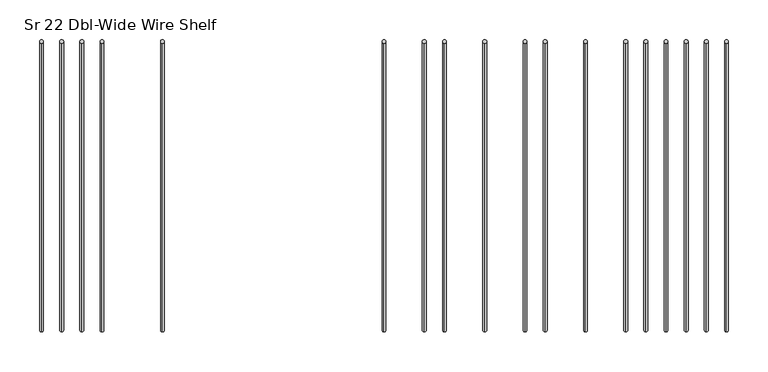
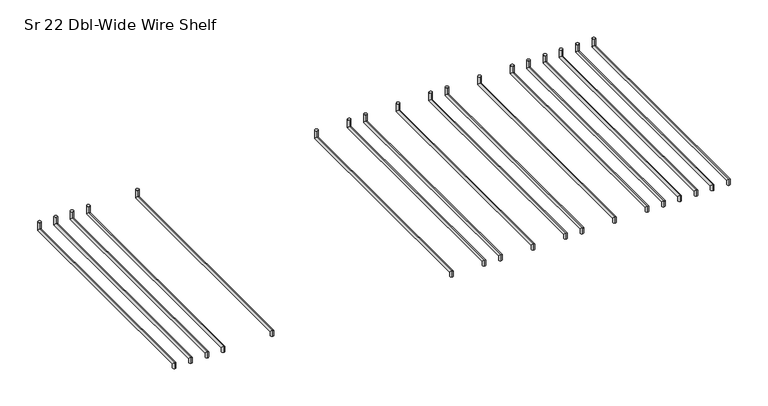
"""IFC4 building model written with IfcOpenShell, lengths in millimetres: furniture geometry, HermanMiller_Carts_CT521_CartShelf : Sr 22 Dbl-Wide Wire Shelf."""

from ifc_helpers import new_model, si_unit, frame, origin, place, context, project, spatial, circle_curve, ellipse_curve, source, transform, mapped, element, save
from ifc_brep_helpers import plane_surface, cylinder_surface, advanced_brep


def sr_22_dbl_wide_wire_shelf_e24182ef(model_context):
    return source(origin(), model_context, "Body", "AdvancedBrep", [
        advanced_brep(
        [(561.7223083, -206.38135, 2148.4971), (561.7223083, -211.14385, 2148.4971), (561.7223083, -206.38135, 2153.2596), (561.7223083, -211.14385, 2158.0221), (561.7223083, 157.2983379, 2153.2596), (561.7223083, 152.5358379, 2158.0221), (561.7223083, 157.2983379, 2168.5377), (561.7223083, 152.5358379, 2168.5377)],
        [
            (0, 1, circle_curve(frame((561.7223083, -208.7626, 2148.4971), z_axis=(0.0, 0.0, -1.0), x_axis=(0.0, -1.0, 0.0)), 2.38125)),
            (1, 0, circle_curve(frame((561.7223083, -208.7626, 2148.4971), z_axis=(0.0, 0.0, -1.0), x_axis=(0.0, -1.0, 0.0)), 2.38125)),
            (0, 2),
            (2, 3, ellipse_curve(frame((561.7223083, -208.7626, 2155.64085), z_axis=(0.0, -0.7071067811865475, -0.7071067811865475), x_axis=(0.0, 0.7071067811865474, -0.7071067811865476)), 3.367596, 2.38125)),
            (3, 1),
            (3, 2, ellipse_curve(frame((561.7223083, -208.7626, 2155.64085), z_axis=(0.0, -0.7071067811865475, -0.7071067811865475), x_axis=(0.0, 0.7071067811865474, -0.7071067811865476)), 3.367596, 2.38125)),
            (2, 4),
            (4, 5, ellipse_curve(frame((561.7223083, 154.9170879, 2155.64085), z_axis=(0.0, -0.7071067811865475, -0.7071067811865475), x_axis=(0.0, -0.7071067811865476, 0.7071067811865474)), 3.367596, 2.38125)),
            (5, 3),
            (5, 4, ellipse_curve(frame((561.7223083, 154.9170879, 2155.64085), z_axis=(0.0, -0.7071067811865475, -0.7071067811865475), x_axis=(0.0, -0.7071067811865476, 0.7071067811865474)), 3.367596, 2.38125)),
            (6, 7, circle_curve(frame((561.7223083, 154.9170879, 2168.5377), z_axis=(0.0, 0.0, 1.0), x_axis=(0.0, -1.0, 0.0)), 2.38125)),
            (7, 6, circle_curve(frame((561.7223083, 154.9170879, 2168.5377), z_axis=(0.0, 0.0, 1.0), x_axis=(0.0, -1.0, 0.0)), 2.38125)),
            (4, 6),
            (7, 5),
        ],
        [
            plane_surface(frame((561.7223083, -208.7626, 2148.4971), z_axis=(0.0, 0.0, -1.0), x_axis=(1.0, 0.0, 0.0))),
            cylinder_surface(frame((561.7223083, -208.7626, 2148.4971), z_axis=(0.0, 0.0, -1.0), x_axis=(0.0, -1.0, 0.0)), 2.38125),
            cylinder_surface(frame((561.7223083, -208.7626, 2155.64085), z_axis=(0.0, -1.0, 0.0), x_axis=(0.0, 0.0, 1.0)), 2.38125),
            plane_surface(frame((561.7223083, 154.9170879, 2168.5377), z_axis=(0.0, 0.0, 1.0), x_axis=(1.0, 0.0, 0.0))),
            cylinder_surface(frame((561.7223083, 154.9170879, 2155.64085), z_axis=(0.0, 0.0, -1.0), x_axis=(0.0, -1.0, 0.0)), 2.38125),
        ],
        [
            (0, [[1, 2]]),
            (1, [[-1, 3, 4, 5]]),
            (1, [[-2, -5, 6, -3]]),
            (2, [[-4, 7, 8, 9]]),
            (2, [[-6, -9, 10, -7]]),
            (3, [[11, 12]]),
            (4, [[-8, 13, -12, 14]]),
            (4, [[-10, -14, -11, -13]]),
        ],
    ),
        advanced_brep(
        [(637.9223083, -206.38135, 2148.4971), (637.9223083, -211.14385, 2148.4971), (637.9223083, -206.38135, 2153.2596), (637.9223083, -211.14385, 2158.0221), (637.9223083, 157.2983379, 2153.2596), (637.9223083, 152.5358379, 2158.0221), (637.9223083, 157.2983379, 2168.5377), (637.9223083, 152.5358379, 2168.5377)],
        [
            (0, 1, circle_curve(frame((637.9223083, -208.7626, 2148.4971), z_axis=(0.0, 0.0, -1.0), x_axis=(0.0, -1.0, 0.0)), 2.38125)),
            (1, 0, circle_curve(frame((637.9223083, -208.7626, 2148.4971), z_axis=(0.0, 0.0, -1.0), x_axis=(0.0, -1.0, 0.0)), 2.38125)),
            (0, 2),
            (2, 3, ellipse_curve(frame((637.9223083, -208.7626, 2155.64085), z_axis=(0.0, -0.7071067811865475, -0.7071067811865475), x_axis=(0.0, 0.7071067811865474, -0.7071067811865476)), 3.367596, 2.38125)),
            (3, 1),
            (3, 2, ellipse_curve(frame((637.9223083, -208.7626, 2155.64085), z_axis=(0.0, -0.7071067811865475, -0.7071067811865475), x_axis=(0.0, 0.7071067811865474, -0.7071067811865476)), 3.367596, 2.38125)),
            (2, 4),
            (4, 5, ellipse_curve(frame((637.9223083, 154.9170879, 2155.64085), z_axis=(0.0, -0.7071067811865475, -0.7071067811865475), x_axis=(0.0, -0.7071067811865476, 0.7071067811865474)), 3.367596, 2.38125)),
            (5, 3),
            (5, 4, ellipse_curve(frame((637.9223083, 154.9170879, 2155.64085), z_axis=(0.0, -0.7071067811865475, -0.7071067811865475), x_axis=(0.0, -0.7071067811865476, 0.7071067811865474)), 3.367596, 2.38125)),
            (6, 7, circle_curve(frame((637.9223083, 154.9170879, 2168.5377), z_axis=(0.0, 0.0, 1.0), x_axis=(0.0, -1.0, 0.0)), 2.38125)),
            (7, 6, circle_curve(frame((637.9223083, 154.9170879, 2168.5377), z_axis=(0.0, 0.0, 1.0), x_axis=(0.0, -1.0, 0.0)), 2.38125)),
            (4, 6),
            (7, 5),
        ],
        [
            plane_surface(frame((637.9223083, -208.7626, 2148.4971), z_axis=(0.0, 0.0, -1.0), x_axis=(1.0, 0.0, 0.0))),
            cylinder_surface(frame((637.9223083, -208.7626, 2148.4971), z_axis=(0.0, 0.0, -1.0), x_axis=(0.0, -1.0, 0.0)), 2.38125),
            cylinder_surface(frame((637.9223083, -208.7626, 2155.64085), z_axis=(0.0, -1.0, 0.0), x_axis=(0.0, 0.0, 1.0)), 2.38125),
            plane_surface(frame((637.9223083, 154.9170879, 2168.5377), z_axis=(0.0, 0.0, 1.0), x_axis=(1.0, 0.0, 0.0))),
            cylinder_surface(frame((637.9223083, 154.9170879, 2155.64085), z_axis=(0.0, 0.0, -1.0), x_axis=(0.0, -1.0, 0.0)), 2.38125),
        ],
        [
            (0, [[1, 2]]),
            (1, [[-1, 3, 4, 5]]),
            (1, [[-2, -5, 6, -3]]),
            (2, [[-4, 7, 8, 9]]),
            (2, [[-6, -9, 10, -7]]),
            (3, [[11, 12]]),
            (4, [[-8, 13, -12, 14]]),
            (4, [[-10, -14, -11, -13]]),
        ],
    ),
        advanced_brep(
        [(688.7223083, -206.38135, 2148.4971), (688.7223083, -211.14385, 2148.4971), (688.7223083, -206.38135, 2153.2596), (688.7223083, -211.14385, 2158.0221), (688.7223083, 157.2983379, 2153.2596), (688.7223083, 152.5358379, 2158.0221), (688.7223083, 157.2983379, 2168.5377), (688.7223083, 152.5358379, 2168.5377)],
        [
            (0, 1, circle_curve(frame((688.7223083, -208.7626, 2148.4971), z_axis=(0.0, 0.0, -1.0), x_axis=(0.0, -1.0, 0.0)), 2.38125)),
            (1, 0, circle_curve(frame((688.7223083, -208.7626, 2148.4971), z_axis=(0.0, 0.0, -1.0), x_axis=(0.0, -1.0, 0.0)), 2.38125)),
            (0, 2),
            (2, 3, ellipse_curve(frame((688.7223083, -208.7626, 2155.64085), z_axis=(0.0, -0.7071067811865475, -0.7071067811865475), x_axis=(0.0, 0.7071067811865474, -0.7071067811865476)), 3.367596, 2.38125)),
            (3, 1),
            (3, 2, ellipse_curve(frame((688.7223083, -208.7626, 2155.64085), z_axis=(0.0, -0.7071067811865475, -0.7071067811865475), x_axis=(0.0, 0.7071067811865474, -0.7071067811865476)), 3.367596, 2.38125)),
            (2, 4),
            (4, 5, ellipse_curve(frame((688.7223083, 154.9170879, 2155.64085), z_axis=(0.0, -0.7071067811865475, -0.7071067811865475), x_axis=(0.0, -0.7071067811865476, 0.7071067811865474)), 3.367596, 2.38125)),
            (5, 3),
            (5, 4, ellipse_curve(frame((688.7223083, 154.9170879, 2155.64085), z_axis=(0.0, -0.7071067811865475, -0.7071067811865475), x_axis=(0.0, -0.7071067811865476, 0.7071067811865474)), 3.367596, 2.38125)),
            (6, 7, circle_curve(frame((688.7223083, 154.9170879, 2168.5377), z_axis=(0.0, 0.0, 1.0), x_axis=(0.0, -1.0, 0.0)), 2.38125)),
            (7, 6, circle_curve(frame((688.7223083, 154.9170879, 2168.5377), z_axis=(0.0, 0.0, 1.0), x_axis=(0.0, -1.0, 0.0)), 2.38125)),
            (4, 6),
            (7, 5),
        ],
        [
            plane_surface(frame((688.7223083, -208.7626, 2148.4971), z_axis=(0.0, 0.0, -1.0), x_axis=(1.0, 0.0, 0.0))),
            cylinder_surface(frame((688.7223083, -208.7626, 2148.4971), z_axis=(0.0, 0.0, -1.0), x_axis=(0.0, -1.0, 0.0)), 2.38125),
            cylinder_surface(frame((688.7223083, -208.7626, 2155.64085), z_axis=(0.0, -1.0, 0.0), x_axis=(0.0, 0.0, 1.0)), 2.38125),
            plane_surface(frame((688.7223083, 154.9170879, 2168.5377), z_axis=(0.0, 0.0, 1.0), x_axis=(1.0, 0.0, 0.0))),
            cylinder_surface(frame((688.7223083, 154.9170879, 2155.64085), z_axis=(0.0, 0.0, -1.0), x_axis=(0.0, -1.0, 0.0)), 2.38125),
        ],
        [
            (0, [[1, 2]]),
            (1, [[-1, 3, 4, 5]]),
            (1, [[-2, -5, 6, -3]]),
            (2, [[-4, 7, 8, 9]]),
            (2, [[-6, -9, 10, -7]]),
            (3, [[11, 12]]),
            (4, [[-8, 13, -12, 14]]),
            (4, [[-10, -14, -11, -13]]),
        ],
    ),
        advanced_brep(
        [(663.3223083, -206.38135, 2148.4971), (663.3223083, -211.14385, 2148.4971), (663.3223083, -206.38135, 2153.2596), (663.3223083, -211.14385, 2158.0221), (663.3223083, 157.2983379, 2153.2596), (663.3223083, 152.5358379, 2158.0221), (663.3223083, 157.2983379, 2168.5377), (663.3223083, 152.5358379, 2168.5377)],
        [
            (0, 1, circle_curve(frame((663.3223083, -208.7626, 2148.4971), z_axis=(0.0, 0.0, -1.0), x_axis=(0.0, -1.0, 0.0)), 2.38125)),
            (1, 0, circle_curve(frame((663.3223083, -208.7626, 2148.4971), z_axis=(0.0, 0.0, -1.0), x_axis=(0.0, -1.0, 0.0)), 2.38125)),
            (0, 2),
            (2, 3, ellipse_curve(frame((663.3223083, -208.7626, 2155.64085), z_axis=(0.0, -0.7071067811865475, -0.7071067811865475), x_axis=(0.0, 0.7071067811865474, -0.7071067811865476)), 3.367596, 2.38125)),
            (3, 1),
            (3, 2, ellipse_curve(frame((663.3223083, -208.7626, 2155.64085), z_axis=(0.0, -0.7071067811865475, -0.7071067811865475), x_axis=(0.0, 0.7071067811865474, -0.7071067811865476)), 3.367596, 2.38125)),
            (2, 4),
            (4, 5, ellipse_curve(frame((663.3223083, 154.9170879, 2155.64085), z_axis=(0.0, -0.7071067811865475, -0.7071067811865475), x_axis=(0.0, -0.7071067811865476, 0.7071067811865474)), 3.367596, 2.38125)),
            (5, 3),
            (5, 4, ellipse_curve(frame((663.3223083, 154.9170879, 2155.64085), z_axis=(0.0, -0.7071067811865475, -0.7071067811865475), x_axis=(0.0, -0.7071067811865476, 0.7071067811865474)), 3.367596, 2.38125)),
            (6, 7, circle_curve(frame((663.3223083, 154.9170879, 2168.5377), z_axis=(0.0, 0.0, 1.0), x_axis=(0.0, -1.0, 0.0)), 2.38125)),
            (7, 6, circle_curve(frame((663.3223083, 154.9170879, 2168.5377), z_axis=(0.0, 0.0, 1.0), x_axis=(0.0, -1.0, 0.0)), 2.38125)),
            (4, 6),
            (7, 5),
        ],
        [
            plane_surface(frame((663.3223083, -208.7626, 2148.4971), z_axis=(0.0, 0.0, -1.0), x_axis=(1.0, 0.0, 0.0))),
            cylinder_surface(frame((663.3223083, -208.7626, 2148.4971), z_axis=(0.0, 0.0, -1.0), x_axis=(0.0, -1.0, 0.0)), 2.38125),
            cylinder_surface(frame((663.3223083, -208.7626, 2155.64085), z_axis=(0.0, -1.0, 0.0), x_axis=(0.0, 0.0, 1.0)), 2.38125),
            plane_surface(frame((663.3223083, 154.9170879, 2168.5377), z_axis=(0.0, 0.0, 1.0), x_axis=(1.0, 0.0, 0.0))),
            cylinder_surface(frame((663.3223083, 154.9170879, 2155.64085), z_axis=(0.0, 0.0, -1.0), x_axis=(0.0, -1.0, 0.0)), 2.38125),
        ],
        [
            (0, [[1, 2]]),
            (1, [[-1, 3, 4, 5]]),
            (1, [[-2, -5, 6, -3]]),
            (2, [[-4, 7, 8, 9]]),
            (2, [[-6, -9, 10, -7]]),
            (3, [[11, 12]]),
            (4, [[-8, 13, -12, 14]]),
            (4, [[-10, -14, -11, -13]]),
        ],
    ),
        advanced_brep(
        [(612.5223083, -206.38135, 2148.4971), (612.5223083, -211.14385, 2148.4971), (612.5223083, -206.38135, 2153.2596), (612.5223083, -211.14385, 2158.0221), (612.5223083, 157.2983379, 2153.2596), (612.5223083, 152.5358379, 2158.0221), (612.5223083, 157.2983379, 2168.5377), (612.5223083, 152.5358379, 2168.5377)],
        [
            (0, 1, circle_curve(frame((612.5223083, -208.7626, 2148.4971), z_axis=(0.0, 0.0, -1.0), x_axis=(0.0, -1.0, 0.0)), 2.38125)),
            (1, 0, circle_curve(frame((612.5223083, -208.7626, 2148.4971), z_axis=(0.0, 0.0, -1.0), x_axis=(0.0, -1.0, 0.0)), 2.38125)),
            (0, 2),
            (2, 3, ellipse_curve(frame((612.5223083, -208.7626, 2155.64085), z_axis=(0.0, -0.7071067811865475, -0.7071067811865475), x_axis=(0.0, 0.7071067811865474, -0.7071067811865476)), 3.367596, 2.38125)),
            (3, 1),
            (3, 2, ellipse_curve(frame((612.5223083, -208.7626, 2155.64085), z_axis=(0.0, -0.7071067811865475, -0.7071067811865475), x_axis=(0.0, 0.7071067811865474, -0.7071067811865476)), 3.367596, 2.38125)),
            (2, 4),
            (4, 5, ellipse_curve(frame((612.5223083, 154.9170879, 2155.64085), z_axis=(0.0, -0.7071067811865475, -0.7071067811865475), x_axis=(0.0, -0.7071067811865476, 0.7071067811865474)), 3.367596, 2.38125)),
            (5, 3),
            (5, 4, ellipse_curve(frame((612.5223083, 154.9170879, 2155.64085), z_axis=(0.0, -0.7071067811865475, -0.7071067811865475), x_axis=(0.0, -0.7071067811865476, 0.7071067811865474)), 3.367596, 2.38125)),
            (6, 7, circle_curve(frame((612.5223083, 154.9170879, 2168.5377), z_axis=(0.0, 0.0, 1.0), x_axis=(0.0, -1.0, 0.0)), 2.38125)),
            (7, 6, circle_curve(frame((612.5223083, 154.9170879, 2168.5377), z_axis=(0.0, 0.0, 1.0), x_axis=(0.0, -1.0, 0.0)), 2.38125)),
            (4, 6),
            (7, 5),
        ],
        [
            plane_surface(frame((612.5223083, -208.7626, 2148.4971), z_axis=(0.0, 0.0, -1.0), x_axis=(1.0, 0.0, 0.0))),
            cylinder_surface(frame((612.5223083, -208.7626, 2148.4971), z_axis=(0.0, 0.0, -1.0), x_axis=(0.0, -1.0, 0.0)), 2.38125),
            cylinder_surface(frame((612.5223083, -208.7626, 2155.64085), z_axis=(0.0, -1.0, 0.0), x_axis=(0.0, 0.0, 1.0)), 2.38125),
            plane_surface(frame((612.5223083, 154.9170879, 2168.5377), z_axis=(0.0, 0.0, 1.0), x_axis=(1.0, 0.0, 0.0))),
            cylinder_surface(frame((612.5223083, 154.9170879, 2155.64085), z_axis=(0.0, 0.0, -1.0), x_axis=(0.0, -1.0, 0.0)), 2.38125),
        ],
        [
            (0, [[1, 2]]),
            (1, [[-1, 3, 4, 5]]),
            (1, [[-2, -5, 6, -3]]),
            (2, [[-4, 7, 8, 9]]),
            (2, [[-6, -9, 10, -7]]),
            (3, [[11, 12]]),
            (4, [[-8, 13, -12, 14]]),
            (4, [[-10, -14, -11, -13]]),
        ],
    ),
        advanced_brep(
        [(587.1223083, -206.38135, 2148.4971), (587.1223083, -211.14385, 2148.4971), (587.1223083, -206.38135, 2153.2596), (587.1223083, -211.14385, 2158.0221), (587.1223083, 157.2983379, 2153.2596), (587.1223083, 152.5358379, 2158.0221), (587.1223083, 157.2983379, 2168.5377), (587.1223083, 152.5358379, 2168.5377)],
        [
            (0, 1, circle_curve(frame((587.1223083, -208.7626, 2148.4971), z_axis=(0.0, 0.0, -1.0), x_axis=(0.0, -1.0, 0.0)), 2.38125)),
            (1, 0, circle_curve(frame((587.1223083, -208.7626, 2148.4971), z_axis=(0.0, 0.0, -1.0), x_axis=(0.0, -1.0, 0.0)), 2.38125)),
            (0, 2),
            (2, 3, ellipse_curve(frame((587.1223083, -208.7626, 2155.64085), z_axis=(0.0, -0.7071067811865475, -0.7071067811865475), x_axis=(0.0, 0.7071067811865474, -0.7071067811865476)), 3.367596, 2.38125)),
            (3, 1),
            (3, 2, ellipse_curve(frame((587.1223083, -208.7626, 2155.64085), z_axis=(0.0, -0.7071067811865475, -0.7071067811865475), x_axis=(0.0, 0.7071067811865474, -0.7071067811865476)), 3.367596, 2.38125)),
            (2, 4),
            (4, 5, ellipse_curve(frame((587.1223083, 154.9170879, 2155.64085), z_axis=(0.0, -0.7071067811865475, -0.7071067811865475), x_axis=(0.0, -0.7071067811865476, 0.7071067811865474)), 3.367596, 2.38125)),
            (5, 3),
            (5, 4, ellipse_curve(frame((587.1223083, 154.9170879, 2155.64085), z_axis=(0.0, -0.7071067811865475, -0.7071067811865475), x_axis=(0.0, -0.7071067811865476, 0.7071067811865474)), 3.367596, 2.38125)),
            (6, 7, circle_curve(frame((587.1223083, 154.9170879, 2168.5377), z_axis=(0.0, 0.0, 1.0), x_axis=(0.0, -1.0, 0.0)), 2.38125)),
            (7, 6, circle_curve(frame((587.1223083, 154.9170879, 2168.5377), z_axis=(0.0, 0.0, 1.0), x_axis=(0.0, -1.0, 0.0)), 2.38125)),
            (4, 6),
            (7, 5),
        ],
        [
            plane_surface(frame((587.1223083, -208.7626, 2148.4971), z_axis=(0.0, 0.0, -1.0), x_axis=(1.0, 0.0, 0.0))),
            cylinder_surface(frame((587.1223083, -208.7626, 2148.4971), z_axis=(0.0, 0.0, -1.0), x_axis=(0.0, -1.0, 0.0)), 2.38125),
            cylinder_surface(frame((587.1223083, -208.7626, 2155.64085), z_axis=(0.0, -1.0, 0.0), x_axis=(0.0, 0.0, 1.0)), 2.38125),
            plane_surface(frame((587.1223083, 154.9170879, 2168.5377), z_axis=(0.0, 0.0, 1.0), x_axis=(1.0, 0.0, 0.0))),
            cylinder_surface(frame((587.1223083, 154.9170879, 2155.64085), z_axis=(0.0, 0.0, -1.0), x_axis=(0.0, -1.0, 0.0)), 2.38125),
        ],
        [
            (0, [[1, 2]]),
            (1, [[-1, 3, 4, 5]]),
            (1, [[-2, -5, 6, -3]]),
            (2, [[-4, 7, 8, 9]]),
            (2, [[-6, -9, 10, -7]]),
            (3, [[11, 12]]),
            (4, [[-8, 13, -12, 14]]),
            (4, [[-10, -14, -11, -13]]),
        ],
    ),
        advanced_brep(
        [(510.9223083, -206.38135, 2148.4971), (510.9223083, -211.14385, 2148.4971), (510.9223083, -206.38135, 2153.2596), (510.9223083, -211.14385, 2158.0221), (510.9223083, 157.2983379, 2153.2596), (510.9223083, 152.5358379, 2158.0221), (510.9223083, 157.2983379, 2168.5377), (510.9223083, 152.5358379, 2168.5377)],
        [
            (0, 1, circle_curve(frame((510.9223083, -208.7626, 2148.4971), z_axis=(0.0, 0.0, -1.0), x_axis=(0.0, -1.0, 0.0)), 2.38125)),
            (1, 0, circle_curve(frame((510.9223083, -208.7626, 2148.4971), z_axis=(0.0, 0.0, -1.0), x_axis=(0.0, -1.0, 0.0)), 2.38125)),
            (0, 2),
            (2, 3, ellipse_curve(frame((510.9223083, -208.7626, 2155.64085), z_axis=(0.0, -0.7071067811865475, -0.7071067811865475), x_axis=(0.0, 0.7071067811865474, -0.7071067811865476)), 3.367596, 2.38125)),
            (3, 1),
            (3, 2, ellipse_curve(frame((510.9223083, -208.7626, 2155.64085), z_axis=(0.0, -0.7071067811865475, -0.7071067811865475), x_axis=(0.0, 0.7071067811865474, -0.7071067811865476)), 3.367596, 2.38125)),
            (2, 4),
            (4, 5, ellipse_curve(frame((510.9223083, 154.9170879, 2155.64085), z_axis=(0.0, -0.7071067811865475, -0.7071067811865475), x_axis=(0.0, -0.7071067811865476, 0.7071067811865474)), 3.367596, 2.38125)),
            (5, 3),
            (5, 4, ellipse_curve(frame((510.9223083, 154.9170879, 2155.64085), z_axis=(0.0, -0.7071067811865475, -0.7071067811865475), x_axis=(0.0, -0.7071067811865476, 0.7071067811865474)), 3.367596, 2.38125)),
            (6, 7, circle_curve(frame((510.9223083, 154.9170879, 2168.5377), z_axis=(0.0, 0.0, 1.0), x_axis=(0.0, -1.0, 0.0)), 2.38125)),
            (7, 6, circle_curve(frame((510.9223083, 154.9170879, 2168.5377), z_axis=(0.0, 0.0, 1.0), x_axis=(0.0, -1.0, 0.0)), 2.38125)),
            (4, 6),
            (7, 5),
        ],
        [
            plane_surface(frame((510.9223083, -208.7626, 2148.4971), z_axis=(0.0, 0.0, -1.0), x_axis=(1.0, 0.0, 0.0))),
            cylinder_surface(frame((510.9223083, -208.7626, 2148.4971), z_axis=(0.0, 0.0, -1.0), x_axis=(0.0, -1.0, 0.0)), 2.38125),
            cylinder_surface(frame((510.9223083, -208.7626, 2155.64085), z_axis=(0.0, -1.0, 0.0), x_axis=(0.0, 0.0, 1.0)), 2.38125),
            plane_surface(frame((510.9223083, 154.9170879, 2168.5377), z_axis=(0.0, 0.0, 1.0), x_axis=(1.0, 0.0, 0.0))),
            cylinder_surface(frame((510.9223083, 154.9170879, 2155.64085), z_axis=(0.0, 0.0, -1.0), x_axis=(0.0, -1.0, 0.0)), 2.38125),
        ],
        [
            (0, [[1, 2]]),
            (1, [[-1, 3, 4, 5]]),
            (1, [[-2, -5, 6, -3]]),
            (2, [[-4, 7, 8, 9]]),
            (2, [[-6, -9, 10, -7]]),
            (3, [[11, 12]]),
            (4, [[-8, 13, -12, 14]]),
            (4, [[-10, -14, -11, -13]]),
        ],
    ),
        advanced_brep(
        [(460.1223083, -206.38135, 2148.4971), (460.1223083, -211.14385, 2148.4971), (460.1223083, -206.38135, 2153.2596), (460.1223083, -211.14385, 2158.0221), (460.1223083, 157.2983379, 2153.2596), (460.1223083, 152.5358379, 2158.0221), (460.1223083, 157.2983379, 2168.5377), (460.1223083, 152.5358379, 2168.5377)],
        [
            (0, 1, circle_curve(frame((460.1223083, -208.7626, 2148.4971), z_axis=(0.0, 0.0, -1.0), x_axis=(0.0, -1.0, 0.0)), 2.38125)),
            (1, 0, circle_curve(frame((460.1223083, -208.7626, 2148.4971), z_axis=(0.0, 0.0, -1.0), x_axis=(0.0, -1.0, 0.0)), 2.38125)),
            (0, 2),
            (2, 3, ellipse_curve(frame((460.1223083, -208.7626, 2155.64085), z_axis=(0.0, -0.7071067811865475, -0.7071067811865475), x_axis=(0.0, 0.7071067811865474, -0.7071067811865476)), 3.367596, 2.38125)),
            (3, 1),
            (3, 2, ellipse_curve(frame((460.1223083, -208.7626, 2155.64085), z_axis=(0.0, -0.7071067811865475, -0.7071067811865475), x_axis=(0.0, 0.7071067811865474, -0.7071067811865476)), 3.367596, 2.38125)),
            (2, 4),
            (4, 5, ellipse_curve(frame((460.1223083, 154.9170879, 2155.64085), z_axis=(0.0, -0.7071067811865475, -0.7071067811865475), x_axis=(0.0, -0.7071067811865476, 0.7071067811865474)), 3.367596, 2.38125)),
            (5, 3),
            (5, 4, ellipse_curve(frame((460.1223083, 154.9170879, 2155.64085), z_axis=(0.0, -0.7071067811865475, -0.7071067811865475), x_axis=(0.0, -0.7071067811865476, 0.7071067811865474)), 3.367596, 2.38125)),
            (6, 7, circle_curve(frame((460.1223083, 154.9170879, 2168.5377), z_axis=(0.0, 0.0, 1.0), x_axis=(0.0, -1.0, 0.0)), 2.38125)),
            (7, 6, circle_curve(frame((460.1223083, 154.9170879, 2168.5377), z_axis=(0.0, 0.0, 1.0), x_axis=(0.0, -1.0, 0.0)), 2.38125)),
            (4, 6),
            (7, 5),
        ],
        [
            plane_surface(frame((460.1223083, -208.7626, 2148.4971), z_axis=(0.0, 0.0, -1.0), x_axis=(1.0, 0.0, 0.0))),
            cylinder_surface(frame((460.1223083, -208.7626, 2148.4971), z_axis=(0.0, 0.0, -1.0), x_axis=(0.0, -1.0, 0.0)), 2.38125),
            cylinder_surface(frame((460.1223083, -208.7626, 2155.64085), z_axis=(0.0, -1.0, 0.0), x_axis=(0.0, 0.0, 1.0)), 2.38125),
            plane_surface(frame((460.1223083, 154.9170879, 2168.5377), z_axis=(0.0, 0.0, 1.0), x_axis=(1.0, 0.0, 0.0))),
            cylinder_surface(frame((460.1223083, 154.9170879, 2155.64085), z_axis=(0.0, 0.0, -1.0), x_axis=(0.0, -1.0, 0.0)), 2.38125),
        ],
        [
            (0, [[1, 2]]),
            (1, [[-1, 3, 4, 5]]),
            (1, [[-2, -5, 6, -3]]),
            (2, [[-4, 7, 8, 9]]),
            (2, [[-6, -9, 10, -7]]),
            (3, [[11, 12]]),
            (4, [[-8, 13, -12, 14]]),
            (4, [[-10, -14, -11, -13]]),
        ],
    ),
        advanced_brep(
        [(434.7223083, -206.38135, 2148.4971), (434.7223083, -211.14385, 2148.4971), (434.7223083, -206.38135, 2153.2596), (434.7223083, -211.14385, 2158.0221), (434.7223083, 157.2983379, 2153.2596), (434.7223083, 152.5358379, 2158.0221), (434.7223083, 157.2983379, 2168.5377), (434.7223083, 152.5358379, 2168.5377)],
        [
            (0, 1, circle_curve(frame((434.7223083, -208.7626, 2148.4971), z_axis=(0.0, 0.0, -1.0), x_axis=(0.0, -1.0, 0.0)), 2.38125)),
            (1, 0, circle_curve(frame((434.7223083, -208.7626, 2148.4971), z_axis=(0.0, 0.0, -1.0), x_axis=(0.0, -1.0, 0.0)), 2.38125)),
            (0, 2),
            (2, 3, ellipse_curve(frame((434.7223083, -208.7626, 2155.64085), z_axis=(0.0, -0.7071067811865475, -0.7071067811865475), x_axis=(0.0, 0.7071067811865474, -0.7071067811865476)), 3.367596, 2.38125)),
            (3, 1),
            (3, 2, ellipse_curve(frame((434.7223083, -208.7626, 2155.64085), z_axis=(0.0, -0.7071067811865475, -0.7071067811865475), x_axis=(0.0, 0.7071067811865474, -0.7071067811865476)), 3.367596, 2.38125)),
            (2, 4),
            (4, 5, ellipse_curve(frame((434.7223083, 154.9170879, 2155.64085), z_axis=(0.0, -0.7071067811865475, -0.7071067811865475), x_axis=(0.0, -0.7071067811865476, 0.7071067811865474)), 3.367596, 2.38125)),
            (5, 3),
            (5, 4, ellipse_curve(frame((434.7223083, 154.9170879, 2155.64085), z_axis=(0.0, -0.7071067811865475, -0.7071067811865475), x_axis=(0.0, -0.7071067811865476, 0.7071067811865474)), 3.367596, 2.38125)),
            (6, 7, circle_curve(frame((434.7223083, 154.9170879, 2168.5377), z_axis=(0.0, 0.0, 1.0), x_axis=(0.0, -1.0, 0.0)), 2.38125)),
            (7, 6, circle_curve(frame((434.7223083, 154.9170879, 2168.5377), z_axis=(0.0, 0.0, 1.0), x_axis=(0.0, -1.0, 0.0)), 2.38125)),
            (4, 6),
            (7, 5),
        ],
        [
            plane_surface(frame((434.7223083, -208.7626, 2148.4971), z_axis=(0.0, 0.0, -1.0), x_axis=(1.0, 0.0, 0.0))),
            cylinder_surface(frame((434.7223083, -208.7626, 2148.4971), z_axis=(0.0, 0.0, -1.0), x_axis=(0.0, -1.0, 0.0)), 2.38125),
            cylinder_surface(frame((434.7223083, -208.7626, 2155.64085), z_axis=(0.0, -1.0, 0.0), x_axis=(0.0, 0.0, 1.0)), 2.38125),
            plane_surface(frame((434.7223083, 154.9170879, 2168.5377), z_axis=(0.0, 0.0, 1.0), x_axis=(1.0, 0.0, 0.0))),
            cylinder_surface(frame((434.7223083, 154.9170879, 2155.64085), z_axis=(0.0, 0.0, -1.0), x_axis=(0.0, -1.0, 0.0)), 2.38125),
        ],
        [
            (0, [[1, 2]]),
            (1, [[-1, 3, 4, 5]]),
            (1, [[-2, -5, 6, -3]]),
            (2, [[-4, 7, 8, 9]]),
            (2, [[-6, -9, 10, -7]]),
            (3, [[11, 12]]),
            (4, [[-8, 13, -12, 14]]),
            (4, [[-10, -14, -11, -13]]),
        ],
    ),
        advanced_brep(
        [(-98.6776917, -206.38135, 2148.4971), (-98.6776917, -211.14385, 2148.4971), (-98.6776917, -206.38135, 2153.2596), (-98.6776917, -211.14385, 2158.0221), (-98.6776917, 157.2983379, 2153.2596), (-98.6776917, 152.5358379, 2158.0221), (-98.6776917, 157.2983379, 2168.5377), (-98.6776917, 152.5358379, 2168.5377)],
        [
            (0, 1, circle_curve(frame((-98.6776917, -208.7626, 2148.4971), z_axis=(0.0, 0.0, -1.0), x_axis=(0.0, -1.0, 0.0)), 2.38125)),
            (1, 0, circle_curve(frame((-98.6776917, -208.7626, 2148.4971), z_axis=(0.0, 0.0, -1.0), x_axis=(0.0, -1.0, 0.0)), 2.38125)),
            (0, 2),
            (2, 3, ellipse_curve(frame((-98.6776917, -208.7626, 2155.64085), z_axis=(0.0, -0.7071067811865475, -0.7071067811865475), x_axis=(0.0, 0.7071067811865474, -0.7071067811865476)), 3.367596, 2.38125)),
            (3, 1),
            (3, 2, ellipse_curve(frame((-98.6776917, -208.7626, 2155.64085), z_axis=(0.0, -0.7071067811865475, -0.7071067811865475), x_axis=(0.0, 0.7071067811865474, -0.7071067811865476)), 3.367596, 2.38125)),
            (2, 4),
            (4, 5, ellipse_curve(frame((-98.6776917, 154.9170879, 2155.64085), z_axis=(0.0, -0.7071067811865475, -0.7071067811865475), x_axis=(0.0, -0.7071067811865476, 0.7071067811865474)), 3.367596, 2.38125)),
            (5, 3),
            (5, 4, ellipse_curve(frame((-98.6776917, 154.9170879, 2155.64085), z_axis=(0.0, -0.7071067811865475, -0.7071067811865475), x_axis=(0.0, -0.7071067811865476, 0.7071067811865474)), 3.367596, 2.38125)),
            (6, 7, circle_curve(frame((-98.6776917, 154.9170879, 2168.5377), z_axis=(0.0, 0.0, 1.0), x_axis=(0.0, -1.0, 0.0)), 2.38125)),
            (7, 6, circle_curve(frame((-98.6776917, 154.9170879, 2168.5377), z_axis=(0.0, 0.0, 1.0), x_axis=(0.0, -1.0, 0.0)), 2.38125)),
            (4, 6),
            (7, 5),
        ],
        [
            plane_surface(frame((-98.6776917, -208.7626, 2148.4971), z_axis=(0.0, 0.0, -1.0), x_axis=(1.0, 0.0, 0.0))),
            cylinder_surface(frame((-98.6776917, -208.7626, 2148.4971), z_axis=(0.0, 0.0, -1.0), x_axis=(0.0, -1.0, 0.0)), 2.38125),
            cylinder_surface(frame((-98.6776917, -208.7626, 2155.64085), z_axis=(0.0, -1.0, 0.0), x_axis=(0.0, 0.0, 1.0)), 2.38125),
            plane_surface(frame((-98.6776917, 154.9170879, 2168.5377), z_axis=(0.0, 0.0, 1.0), x_axis=(1.0, 0.0, 0.0))),
            cylinder_surface(frame((-98.6776917, 154.9170879, 2155.64085), z_axis=(0.0, 0.0, -1.0), x_axis=(0.0, -1.0, 0.0)), 2.38125),
        ],
        [
            (0, [[1, 2]]),
            (1, [[-1, 3, 4, 5]]),
            (1, [[-2, -5, 6, -3]]),
            (2, [[-4, 7, 8, 9]]),
            (2, [[-6, -9, 10, -7]]),
            (3, [[11, 12]]),
            (4, [[-8, 13, -12, 14]]),
            (4, [[-10, -14, -11, -13]]),
        ],
    ),
        advanced_brep(
        [(-149.4776917, -206.38135, 2148.4971), (-149.4776917, -211.14385, 2148.4971), (-149.4776917, -206.38135, 2153.2596), (-149.4776917, -211.14385, 2158.0221), (-149.4776917, 157.2983379, 2153.2596), (-149.4776917, 152.5358379, 2158.0221), (-149.4776917, 157.2983379, 2168.5377), (-149.4776917, 152.5358379, 2168.5377)],
        [
            (0, 1, circle_curve(frame((-149.4776917, -208.7626, 2148.4971), z_axis=(0.0, 0.0, -1.0), x_axis=(0.0, -1.0, 0.0)), 2.38125)),
            (1, 0, circle_curve(frame((-149.4776917, -208.7626, 2148.4971), z_axis=(0.0, 0.0, -1.0), x_axis=(0.0, -1.0, 0.0)), 2.38125)),
            (0, 2),
            (2, 3, ellipse_curve(frame((-149.4776917, -208.7626, 2155.64085), z_axis=(0.0, -0.7071067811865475, -0.7071067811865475), x_axis=(0.0, 0.7071067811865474, -0.7071067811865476)), 3.367596, 2.38125)),
            (3, 1),
            (3, 2, ellipse_curve(frame((-149.4776917, -208.7626, 2155.64085), z_axis=(0.0, -0.7071067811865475, -0.7071067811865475), x_axis=(0.0, 0.7071067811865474, -0.7071067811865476)), 3.367596, 2.38125)),
            (2, 4),
            (4, 5, ellipse_curve(frame((-149.4776917, 154.9170879, 2155.64085), z_axis=(0.0, -0.7071067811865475, -0.7071067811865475), x_axis=(0.0, -0.7071067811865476, 0.7071067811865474)), 3.367596, 2.38125)),
            (5, 3),
            (5, 4, ellipse_curve(frame((-149.4776917, 154.9170879, 2155.64085), z_axis=(0.0, -0.7071067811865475, -0.7071067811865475), x_axis=(0.0, -0.7071067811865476, 0.7071067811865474)), 3.367596, 2.38125)),
            (6, 7, circle_curve(frame((-149.4776917, 154.9170879, 2168.5377), z_axis=(0.0, 0.0, 1.0), x_axis=(0.0, -1.0, 0.0)), 2.38125)),
            (7, 6, circle_curve(frame((-149.4776917, 154.9170879, 2168.5377), z_axis=(0.0, 0.0, 1.0), x_axis=(0.0, -1.0, 0.0)), 2.38125)),
            (4, 6),
            (7, 5),
        ],
        [
            plane_surface(frame((-149.4776917, -208.7626, 2148.4971), z_axis=(0.0, 0.0, -1.0), x_axis=(1.0, 0.0, 0.0))),
            cylinder_surface(frame((-149.4776917, -208.7626, 2148.4971), z_axis=(0.0, 0.0, -1.0), x_axis=(0.0, -1.0, 0.0)), 2.38125),
            cylinder_surface(frame((-149.4776917, -208.7626, 2155.64085), z_axis=(0.0, -1.0, 0.0), x_axis=(0.0, 0.0, 1.0)), 2.38125),
            plane_surface(frame((-149.4776917, 154.9170879, 2168.5377), z_axis=(0.0, 0.0, 1.0), x_axis=(1.0, 0.0, 0.0))),
            cylinder_surface(frame((-149.4776917, 154.9170879, 2155.64085), z_axis=(0.0, 0.0, -1.0), x_axis=(0.0, -1.0, 0.0)), 2.38125),
        ],
        [
            (0, [[1, 2]]),
            (1, [[-1, 3, 4, 5]]),
            (1, [[-2, -5, 6, -3]]),
            (2, [[-4, 7, 8, 9]]),
            (2, [[-6, -9, 10, -7]]),
            (3, [[11, 12]]),
            (4, [[-8, 13, -12, 14]]),
            (4, [[-10, -14, -11, -13]]),
        ],
    ),
        advanced_brep(
        [(-174.8776917, -206.38135, 2148.4971), (-174.8776917, -211.14385, 2148.4971), (-174.8776917, -206.38135, 2153.2596), (-174.8776917, -211.14385, 2158.0221), (-174.8776917, 157.2983379, 2153.2596), (-174.8776917, 152.5358379, 2158.0221), (-174.8776917, 157.2983379, 2168.5377), (-174.8776917, 152.5358379, 2168.5377)],
        [
            (0, 1, circle_curve(frame((-174.8776917, -208.7626, 2148.4971), z_axis=(0.0, 0.0, -1.0), x_axis=(0.0, -1.0, 0.0)), 2.38125)),
            (1, 0, circle_curve(frame((-174.8776917, -208.7626, 2148.4971), z_axis=(0.0, 0.0, -1.0), x_axis=(0.0, -1.0, 0.0)), 2.38125)),
            (0, 2),
            (2, 3, ellipse_curve(frame((-174.8776917, -208.7626, 2155.64085), z_axis=(0.0, -0.7071067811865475, -0.7071067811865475), x_axis=(0.0, 0.7071067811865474, -0.7071067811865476)), 3.367596, 2.38125)),
            (3, 1),
            (3, 2, ellipse_curve(frame((-174.8776917, -208.7626, 2155.64085), z_axis=(0.0, -0.7071067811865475, -0.7071067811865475), x_axis=(0.0, 0.7071067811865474, -0.7071067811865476)), 3.367596, 2.38125)),
            (2, 4),
            (4, 5, ellipse_curve(frame((-174.8776917, 154.9170879, 2155.64085), z_axis=(0.0, -0.7071067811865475, -0.7071067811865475), x_axis=(0.0, -0.7071067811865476, 0.7071067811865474)), 3.367596, 2.38125)),
            (5, 3),
            (5, 4, ellipse_curve(frame((-174.8776917, 154.9170879, 2155.64085), z_axis=(0.0, -0.7071067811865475, -0.7071067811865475), x_axis=(0.0, -0.7071067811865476, 0.7071067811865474)), 3.367596, 2.38125)),
            (6, 7, circle_curve(frame((-174.8776917, 154.9170879, 2168.5377), z_axis=(0.0, 0.0, 1.0), x_axis=(0.0, -1.0, 0.0)), 2.38125)),
            (7, 6, circle_curve(frame((-174.8776917, 154.9170879, 2168.5377), z_axis=(0.0, 0.0, 1.0), x_axis=(0.0, -1.0, 0.0)), 2.38125)),
            (4, 6),
            (7, 5),
        ],
        [
            plane_surface(frame((-174.8776917, -208.7626, 2148.4971), z_axis=(0.0, 0.0, -1.0), x_axis=(1.0, 0.0, 0.0))),
            cylinder_surface(frame((-174.8776917, -208.7626, 2148.4971), z_axis=(0.0, 0.0, -1.0), x_axis=(0.0, -1.0, 0.0)), 2.38125),
            cylinder_surface(frame((-174.8776917, -208.7626, 2155.64085), z_axis=(0.0, -1.0, 0.0), x_axis=(0.0, 0.0, 1.0)), 2.38125),
            plane_surface(frame((-174.8776917, 154.9170879, 2168.5377), z_axis=(0.0, 0.0, 1.0), x_axis=(1.0, 0.0, 0.0))),
            cylinder_surface(frame((-174.8776917, 154.9170879, 2155.64085), z_axis=(0.0, 0.0, -1.0), x_axis=(0.0, -1.0, 0.0)), 2.38125),
        ],
        [
            (0, [[1, 2]]),
            (1, [[-1, 3, 4, 5]]),
            (1, [[-2, -5, 6, -3]]),
            (2, [[-4, 7, 8, 9]]),
            (2, [[-6, -9, 10, -7]]),
            (3, [[11, 12]]),
            (4, [[-8, 13, -12, 14]]),
            (4, [[-10, -14, -11, -13]]),
        ],
    ),
        advanced_brep(
        [(-124.0776917, -206.38135, 2148.4971), (-124.0776917, -211.14385, 2148.4971), (-124.0776917, -206.38135, 2153.2596), (-124.0776917, -211.14385, 2158.0221), (-124.0776917, 157.2983379, 2153.2596), (-124.0776917, 152.5358379, 2158.0221), (-124.0776917, 157.2983379, 2168.5377), (-124.0776917, 152.5358379, 2168.5377)],
        [
            (0, 1, circle_curve(frame((-124.0776917, -208.7626, 2148.4971), z_axis=(0.0, 0.0, -1.0), x_axis=(0.0, -1.0, 0.0)), 2.38125)),
            (1, 0, circle_curve(frame((-124.0776917, -208.7626, 2148.4971), z_axis=(0.0, 0.0, -1.0), x_axis=(0.0, -1.0, 0.0)), 2.38125)),
            (0, 2),
            (2, 3, ellipse_curve(frame((-124.0776917, -208.7626, 2155.64085), z_axis=(0.0, -0.7071067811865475, -0.7071067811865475), x_axis=(0.0, 0.7071067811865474, -0.7071067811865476)), 3.367596, 2.38125)),
            (3, 1),
            (3, 2, ellipse_curve(frame((-124.0776917, -208.7626, 2155.64085), z_axis=(0.0, -0.7071067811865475, -0.7071067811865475), x_axis=(0.0, 0.7071067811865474, -0.7071067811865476)), 3.367596, 2.38125)),
            (2, 4),
            (4, 5, ellipse_curve(frame((-124.0776917, 154.9170879, 2155.64085), z_axis=(0.0, -0.7071067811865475, -0.7071067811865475), x_axis=(0.0, -0.7071067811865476, 0.7071067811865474)), 3.367596, 2.38125)),
            (5, 3),
            (5, 4, ellipse_curve(frame((-124.0776917, 154.9170879, 2155.64085), z_axis=(0.0, -0.7071067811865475, -0.7071067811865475), x_axis=(0.0, -0.7071067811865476, 0.7071067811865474)), 3.367596, 2.38125)),
            (6, 7, circle_curve(frame((-124.0776917, 154.9170879, 2168.5377), z_axis=(0.0, 0.0, 1.0), x_axis=(0.0, -1.0, 0.0)), 2.38125)),
            (7, 6, circle_curve(frame((-124.0776917, 154.9170879, 2168.5377), z_axis=(0.0, 0.0, 1.0), x_axis=(0.0, -1.0, 0.0)), 2.38125)),
            (4, 6),
            (7, 5),
        ],
        [
            plane_surface(frame((-124.0776917, -208.7626, 2148.4971), z_axis=(0.0, 0.0, -1.0), x_axis=(1.0, 0.0, 0.0))),
            cylinder_surface(frame((-124.0776917, -208.7626, 2148.4971), z_axis=(0.0, 0.0, -1.0), x_axis=(0.0, -1.0, 0.0)), 2.38125),
            cylinder_surface(frame((-124.0776917, -208.7626, 2155.64085), z_axis=(0.0, -1.0, 0.0), x_axis=(0.0, 0.0, 1.0)), 2.38125),
            plane_surface(frame((-124.0776917, 154.9170879, 2168.5377), z_axis=(0.0, 0.0, 1.0), x_axis=(1.0, 0.0, 0.0))),
            cylinder_surface(frame((-124.0776917, 154.9170879, 2155.64085), z_axis=(0.0, 0.0, -1.0), x_axis=(0.0, -1.0, 0.0)), 2.38125),
        ],
        [
            (0, [[1, 2]]),
            (1, [[-1, 3, 4, 5]]),
            (1, [[-2, -5, 6, -3]]),
            (2, [[-4, 7, 8, 9]]),
            (2, [[-6, -9, 10, -7]]),
            (3, [[11, 12]]),
            (4, [[-8, 13, -12, 14]]),
            (4, [[-10, -14, -11, -13]]),
        ],
    ),
        advanced_brep(
        [(-22.4776917, -206.38135, 2148.4971), (-22.4776917, -211.14385, 2148.4971), (-22.4776917, -206.38135, 2153.2596), (-22.4776917, -211.14385, 2158.0221), (-22.4776917, 157.2983379, 2153.2596), (-22.4776917, 152.5358379, 2158.0221), (-22.4776917, 157.2983379, 2168.5377), (-22.4776917, 152.5358379, 2168.5377)],
        [
            (0, 1, circle_curve(frame((-22.4776917, -208.7626, 2148.4971), z_axis=(0.0, 0.0, -1.0), x_axis=(0.0, -1.0, 0.0)), 2.38125)),
            (1, 0, circle_curve(frame((-22.4776917, -208.7626, 2148.4971), z_axis=(0.0, 0.0, -1.0), x_axis=(0.0, -1.0, 0.0)), 2.38125)),
            (0, 2),
            (2, 3, ellipse_curve(frame((-22.4776917, -208.7626, 2155.64085), z_axis=(0.0, -0.7071067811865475, -0.7071067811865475), x_axis=(0.0, 0.7071067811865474, -0.7071067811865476)), 3.367596, 2.38125)),
            (3, 1),
            (3, 2, ellipse_curve(frame((-22.4776917, -208.7626, 2155.64085), z_axis=(0.0, -0.7071067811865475, -0.7071067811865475), x_axis=(0.0, 0.7071067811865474, -0.7071067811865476)), 3.367596, 2.38125)),
            (2, 4),
            (4, 5, ellipse_curve(frame((-22.4776917, 154.9170879, 2155.64085), z_axis=(0.0, -0.7071067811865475, -0.7071067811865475), x_axis=(0.0, -0.7071067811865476, 0.7071067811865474)), 3.367596, 2.38125)),
            (5, 3),
            (5, 4, ellipse_curve(frame((-22.4776917, 154.9170879, 2155.64085), z_axis=(0.0, -0.7071067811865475, -0.7071067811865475), x_axis=(0.0, -0.7071067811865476, 0.7071067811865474)), 3.367596, 2.38125)),
            (6, 7, circle_curve(frame((-22.4776917, 154.9170879, 2168.5377), z_axis=(0.0, 0.0, 1.0), x_axis=(0.0, -1.0, 0.0)), 2.38125)),
            (7, 6, circle_curve(frame((-22.4776917, 154.9170879, 2168.5377), z_axis=(0.0, 0.0, 1.0), x_axis=(0.0, -1.0, 0.0)), 2.38125)),
            (4, 6),
            (7, 5),
        ],
        [
            plane_surface(frame((-22.4776917, -208.7626, 2148.4971), z_axis=(0.0, 0.0, -1.0), x_axis=(1.0, 0.0, 0.0))),
            cylinder_surface(frame((-22.4776917, -208.7626, 2148.4971), z_axis=(0.0, 0.0, -1.0), x_axis=(0.0, -1.0, 0.0)), 2.38125),
            cylinder_surface(frame((-22.4776917, -208.7626, 2155.64085), z_axis=(0.0, -1.0, 0.0), x_axis=(0.0, 0.0, 1.0)), 2.38125),
            plane_surface(frame((-22.4776917, 154.9170879, 2168.5377), z_axis=(0.0, 0.0, 1.0), x_axis=(1.0, 0.0, 0.0))),
            cylinder_surface(frame((-22.4776917, 154.9170879, 2155.64085), z_axis=(0.0, 0.0, -1.0), x_axis=(0.0, -1.0, 0.0)), 2.38125),
        ],
        [
            (0, [[1, 2]]),
            (1, [[-1, 3, 4, 5]]),
            (1, [[-2, -5, 6, -3]]),
            (2, [[-4, 7, 8, 9]]),
            (2, [[-6, -9, 10, -7]]),
            (3, [[11, 12]]),
            (4, [[-8, 13, -12, 14]]),
            (4, [[-10, -14, -11, -13]]),
        ],
    ),
        advanced_brep(
        [(333.1223083, -206.38135, 2148.4971), (333.1223083, -211.14385, 2148.4971), (333.1223083, -206.38135, 2153.2596), (333.1223083, -211.14385, 2158.0221), (333.1223083, 157.2983379, 2153.2596), (333.1223083, 152.5358379, 2158.0221), (333.1223083, 157.2983379, 2168.5377), (333.1223083, 152.5358379, 2168.5377)],
        [
            (0, 1, circle_curve(frame((333.1223083, -208.7626, 2148.4971), z_axis=(0.0, 0.0, -1.0), x_axis=(0.0, -1.0, 0.0)), 2.38125)),
            (1, 0, circle_curve(frame((333.1223083, -208.7626, 2148.4971), z_axis=(0.0, 0.0, -1.0), x_axis=(0.0, -1.0, 0.0)), 2.38125)),
            (0, 2),
            (2, 3, ellipse_curve(frame((333.1223083, -208.7626, 2155.64085), z_axis=(0.0, -0.7071067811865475, -0.7071067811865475), x_axis=(0.0, 0.7071067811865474, -0.7071067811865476)), 3.367596, 2.38125)),
            (3, 1),
            (3, 2, ellipse_curve(frame((333.1223083, -208.7626, 2155.64085), z_axis=(0.0, -0.7071067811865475, -0.7071067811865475), x_axis=(0.0, 0.7071067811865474, -0.7071067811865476)), 3.367596, 2.38125)),
            (2, 4),
            (4, 5, ellipse_curve(frame((333.1223083, 154.9170879, 2155.64085), z_axis=(0.0, -0.7071067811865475, -0.7071067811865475), x_axis=(0.0, -0.7071067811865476, 0.7071067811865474)), 3.367596, 2.38125)),
            (5, 3),
            (5, 4, ellipse_curve(frame((333.1223083, 154.9170879, 2155.64085), z_axis=(0.0, -0.7071067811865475, -0.7071067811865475), x_axis=(0.0, -0.7071067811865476, 0.7071067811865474)), 3.367596, 2.38125)),
            (6, 7, circle_curve(frame((333.1223083, 154.9170879, 2168.5377), z_axis=(0.0, 0.0, 1.0), x_axis=(0.0, -1.0, 0.0)), 2.38125)),
            (7, 6, circle_curve(frame((333.1223083, 154.9170879, 2168.5377), z_axis=(0.0, 0.0, 1.0), x_axis=(0.0, -1.0, 0.0)), 2.38125)),
            (4, 6),
            (7, 5),
        ],
        [
            plane_surface(frame((333.1223083, -208.7626, 2148.4971), z_axis=(0.0, 0.0, -1.0), x_axis=(1.0, 0.0, 0.0))),
            cylinder_surface(frame((333.1223083, -208.7626, 2148.4971), z_axis=(0.0, 0.0, -1.0), x_axis=(0.0, -1.0, 0.0)), 2.38125),
            cylinder_surface(frame((333.1223083, -208.7626, 2155.64085), z_axis=(0.0, -1.0, 0.0), x_axis=(0.0, 0.0, 1.0)), 2.38125),
            plane_surface(frame((333.1223083, 154.9170879, 2168.5377), z_axis=(0.0, 0.0, 1.0), x_axis=(1.0, 0.0, 0.0))),
            cylinder_surface(frame((333.1223083, 154.9170879, 2155.64085), z_axis=(0.0, 0.0, -1.0), x_axis=(0.0, -1.0, 0.0)), 2.38125),
        ],
        [
            (0, [[1, 2]]),
            (1, [[-1, 3, 4, 5]]),
            (1, [[-2, -5, 6, -3]]),
            (2, [[-4, 7, 8, 9]]),
            (2, [[-6, -9, 10, -7]]),
            (3, [[11, 12]]),
            (4, [[-8, 13, -12, 14]]),
            (4, [[-10, -14, -11, -13]]),
        ],
    ),
        advanced_brep(
        [(256.9223083, -206.38135, 2148.4971), (256.9223083, -211.14385, 2148.4971), (256.9223083, -206.38135, 2153.2596), (256.9223083, -211.14385, 2158.0221), (256.9223083, 157.2983379, 2153.2596), (256.9223083, 152.5358379, 2158.0221), (256.9223083, 157.2983379, 2168.5377), (256.9223083, 152.5358379, 2168.5377)],
        [
            (0, 1, circle_curve(frame((256.9223083, -208.7626, 2148.4971), z_axis=(0.0, 0.0, -1.0), x_axis=(0.0, -1.0, 0.0)), 2.38125)),
            (1, 0, circle_curve(frame((256.9223083, -208.7626, 2148.4971), z_axis=(0.0, 0.0, -1.0), x_axis=(0.0, -1.0, 0.0)), 2.38125)),
            (0, 2),
            (2, 3, ellipse_curve(frame((256.9223083, -208.7626, 2155.64085), z_axis=(0.0, -0.7071067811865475, -0.7071067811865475), x_axis=(0.0, 0.7071067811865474, -0.7071067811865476)), 3.367596, 2.38125)),
            (3, 1),
            (3, 2, ellipse_curve(frame((256.9223083, -208.7626, 2155.64085), z_axis=(0.0, -0.7071067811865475, -0.7071067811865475), x_axis=(0.0, 0.7071067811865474, -0.7071067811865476)), 3.367596, 2.38125)),
            (2, 4),
            (4, 5, ellipse_curve(frame((256.9223083, 154.9170879, 2155.64085), z_axis=(0.0, -0.7071067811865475, -0.7071067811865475), x_axis=(0.0, -0.7071067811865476, 0.7071067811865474)), 3.367596, 2.38125)),
            (5, 3),
            (5, 4, ellipse_curve(frame((256.9223083, 154.9170879, 2155.64085), z_axis=(0.0, -0.7071067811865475, -0.7071067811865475), x_axis=(0.0, -0.7071067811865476, 0.7071067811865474)), 3.367596, 2.38125)),
            (6, 7, circle_curve(frame((256.9223083, 154.9170879, 2168.5377), z_axis=(0.0, 0.0, 1.0), x_axis=(0.0, -1.0, 0.0)), 2.38125)),
            (7, 6, circle_curve(frame((256.9223083, 154.9170879, 2168.5377), z_axis=(0.0, 0.0, 1.0), x_axis=(0.0, -1.0, 0.0)), 2.38125)),
            (4, 6),
            (7, 5),
        ],
        [
            plane_surface(frame((256.9223083, -208.7626, 2148.4971), z_axis=(0.0, 0.0, -1.0), x_axis=(1.0, 0.0, 0.0))),
            cylinder_surface(frame((256.9223083, -208.7626, 2148.4971), z_axis=(0.0, 0.0, -1.0), x_axis=(0.0, -1.0, 0.0)), 2.38125),
            cylinder_surface(frame((256.9223083, -208.7626, 2155.64085), z_axis=(0.0, -1.0, 0.0), x_axis=(0.0, 0.0, 1.0)), 2.38125),
            plane_surface(frame((256.9223083, 154.9170879, 2168.5377), z_axis=(0.0, 0.0, 1.0), x_axis=(1.0, 0.0, 0.0))),
            cylinder_surface(frame((256.9223083, 154.9170879, 2155.64085), z_axis=(0.0, 0.0, -1.0), x_axis=(0.0, -1.0, 0.0)), 2.38125),
        ],
        [
            (0, [[1, 2]]),
            (1, [[-1, 3, 4, 5]]),
            (1, [[-2, -5, 6, -3]]),
            (2, [[-4, 7, 8, 9]]),
            (2, [[-6, -9, 10, -7]]),
            (3, [[11, 12]]),
            (4, [[-8, 13, -12, 14]]),
            (4, [[-10, -14, -11, -13]]),
        ],
    ),
        advanced_brep(
        [(307.7223083, -206.38135, 2148.4971), (307.7223083, -211.14385, 2148.4971), (307.7223083, -206.38135, 2153.2596), (307.7223083, -211.14385, 2158.0221), (307.7223083, 157.2983379, 2153.2596), (307.7223083, 152.5358379, 2158.0221), (307.7223083, 157.2983379, 2168.5377), (307.7223083, 152.5358379, 2168.5377)],
        [
            (0, 1, circle_curve(frame((307.7223083, -208.7626, 2148.4971), z_axis=(0.0, 0.0, -1.0), x_axis=(0.0, -1.0, 0.0)), 2.38125)),
            (1, 0, circle_curve(frame((307.7223083, -208.7626, 2148.4971), z_axis=(0.0, 0.0, -1.0), x_axis=(0.0, -1.0, 0.0)), 2.38125)),
            (0, 2),
            (2, 3, ellipse_curve(frame((307.7223083, -208.7626, 2155.64085), z_axis=(0.0, -0.7071067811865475, -0.7071067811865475), x_axis=(0.0, 0.7071067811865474, -0.7071067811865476)), 3.367596, 2.38125)),
            (3, 1),
            (3, 2, ellipse_curve(frame((307.7223083, -208.7626, 2155.64085), z_axis=(0.0, -0.7071067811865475, -0.7071067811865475), x_axis=(0.0, 0.7071067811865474, -0.7071067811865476)), 3.367596, 2.38125)),
            (2, 4),
            (4, 5, ellipse_curve(frame((307.7223083, 154.9170879, 2155.64085), z_axis=(0.0, -0.7071067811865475, -0.7071067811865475), x_axis=(0.0, -0.7071067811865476, 0.7071067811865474)), 3.367596, 2.38125)),
            (5, 3),
            (5, 4, ellipse_curve(frame((307.7223083, 154.9170879, 2155.64085), z_axis=(0.0, -0.7071067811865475, -0.7071067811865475), x_axis=(0.0, -0.7071067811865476, 0.7071067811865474)), 3.367596, 2.38125)),
            (6, 7, circle_curve(frame((307.7223083, 154.9170879, 2168.5377), z_axis=(0.0, 0.0, 1.0), x_axis=(0.0, -1.0, 0.0)), 2.38125)),
            (7, 6, circle_curve(frame((307.7223083, 154.9170879, 2168.5377), z_axis=(0.0, 0.0, 1.0), x_axis=(0.0, -1.0, 0.0)), 2.38125)),
            (4, 6),
            (7, 5),
        ],
        [
            plane_surface(frame((307.7223083, -208.7626, 2148.4971), z_axis=(0.0, 0.0, -1.0), x_axis=(1.0, 0.0, 0.0))),
            cylinder_surface(frame((307.7223083, -208.7626, 2148.4971), z_axis=(0.0, 0.0, -1.0), x_axis=(0.0, -1.0, 0.0)), 2.38125),
            cylinder_surface(frame((307.7223083, -208.7626, 2155.64085), z_axis=(0.0, -1.0, 0.0), x_axis=(0.0, 0.0, 1.0)), 2.38125),
            plane_surface(frame((307.7223083, 154.9170879, 2168.5377), z_axis=(0.0, 0.0, 1.0), x_axis=(1.0, 0.0, 0.0))),
            cylinder_surface(frame((307.7223083, 154.9170879, 2155.64085), z_axis=(0.0, 0.0, -1.0), x_axis=(0.0, -1.0, 0.0)), 2.38125),
        ],
        [
            (0, [[1, 2]]),
            (1, [[-1, 3, 4, 5]]),
            (1, [[-2, -5, 6, -3]]),
            (2, [[-4, 7, 8, 9]]),
            (2, [[-6, -9, 10, -7]]),
            (3, [[11, 12]]),
            (4, [[-8, 13, -12, 14]]),
            (4, [[-10, -14, -11, -13]]),
        ],
    ),
        advanced_brep(
        [(383.9223083, -206.38135, 2148.4971), (383.9223083, -211.14385, 2148.4971), (383.9223083, -206.38135, 2153.2596), (383.9223083, -211.14385, 2158.0221), (383.9223083, 157.2983379, 2153.2596), (383.9223083, 152.5358379, 2158.0221), (383.9223083, 157.2983379, 2168.5377), (383.9223083, 152.5358379, 2168.5377)],
        [
            (0, 1, circle_curve(frame((383.9223083, -208.7626, 2148.4971), z_axis=(0.0, 0.0, -1.0), x_axis=(0.0, -1.0, 0.0)), 2.38125)),
            (1, 0, circle_curve(frame((383.9223083, -208.7626, 2148.4971), z_axis=(0.0, 0.0, -1.0), x_axis=(0.0, -1.0, 0.0)), 2.38125)),
            (0, 2),
            (2, 3, ellipse_curve(frame((383.9223083, -208.7626, 2155.64085), z_axis=(0.0, -0.7071067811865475, -0.7071067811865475), x_axis=(0.0, 0.7071067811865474, -0.7071067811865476)), 3.367596, 2.38125)),
            (3, 1),
            (3, 2, ellipse_curve(frame((383.9223083, -208.7626, 2155.64085), z_axis=(0.0, -0.7071067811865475, -0.7071067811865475), x_axis=(0.0, 0.7071067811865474, -0.7071067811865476)), 3.367596, 2.38125)),
            (2, 4),
            (4, 5, ellipse_curve(frame((383.9223083, 154.9170879, 2155.64085), z_axis=(0.0, -0.7071067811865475, -0.7071067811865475), x_axis=(0.0, -0.7071067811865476, 0.7071067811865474)), 3.367596, 2.38125)),
            (5, 3),
            (5, 4, ellipse_curve(frame((383.9223083, 154.9170879, 2155.64085), z_axis=(0.0, -0.7071067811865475, -0.7071067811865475), x_axis=(0.0, -0.7071067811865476, 0.7071067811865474)), 3.367596, 2.38125)),
            (6, 7, circle_curve(frame((383.9223083, 154.9170879, 2168.5377), z_axis=(0.0, 0.0, 1.0), x_axis=(0.0, -1.0, 0.0)), 2.38125)),
            (7, 6, circle_curve(frame((383.9223083, 154.9170879, 2168.5377), z_axis=(0.0, 0.0, 1.0), x_axis=(0.0, -1.0, 0.0)), 2.38125)),
            (4, 6),
            (7, 5),
        ],
        [
            plane_surface(frame((383.9223083, -208.7626, 2148.4971), z_axis=(0.0, 0.0, -1.0), x_axis=(1.0, 0.0, 0.0))),
            cylinder_surface(frame((383.9223083, -208.7626, 2148.4971), z_axis=(0.0, 0.0, -1.0), x_axis=(0.0, -1.0, 0.0)), 2.38125),
            cylinder_surface(frame((383.9223083, -208.7626, 2155.64085), z_axis=(0.0, -1.0, 0.0), x_axis=(0.0, 0.0, 1.0)), 2.38125),
            plane_surface(frame((383.9223083, 154.9170879, 2168.5377), z_axis=(0.0, 0.0, 1.0), x_axis=(1.0, 0.0, 0.0))),
            cylinder_surface(frame((383.9223083, 154.9170879, 2155.64085), z_axis=(0.0, 0.0, -1.0), x_axis=(0.0, -1.0, 0.0)), 2.38125),
        ],
        [
            (0, [[1, 2]]),
            (1, [[-1, 3, 4, 5]]),
            (1, [[-2, -5, 6, -3]]),
            (2, [[-4, 7, 8, 9]]),
            (2, [[-6, -9, 10, -7]]),
            (3, [[11, 12]]),
            (4, [[-8, 13, -12, 14]]),
            (4, [[-10, -14, -11, -13]]),
        ],
    ),
    ])


if __name__ == "__main__":
    model = new_model("IFC4")
    model_context = context("Model", 3, world=origin())
    ifc_project = project(units=[si_unit("LENGTHUNIT", "METRE", prefix="MILLI")], contexts=[model_context])
    site = spatial("IfcSite", under=ifc_project)
    building = spatial("IfcBuilding", under=site)
    placement = place(None, origin())
    sr_22_dbl_wide_wire_shelf_shape = sr_22_dbl_wide_wire_shelf_e24182ef(model_context)
    element("IfcFurniture", 1, ObjectType="HermanMiller_Carts_CT521_CartShelf : Sr 22 Dbl-Wide Wire Shelf", at=placement, inside=building, context=model_context, shape_type="MappedRepresentation", body=[
        mapped(sr_22_dbl_wide_wire_shelf_shape, transform((0.0, 0.0, 0.0), x_axis=(1.0, 0.0, 0.0), y_axis=(0.0, 1.0, 0.0), z_axis=(0.0, 0.0, 1.0))),
    ])
    save(model, "model.ifc")
